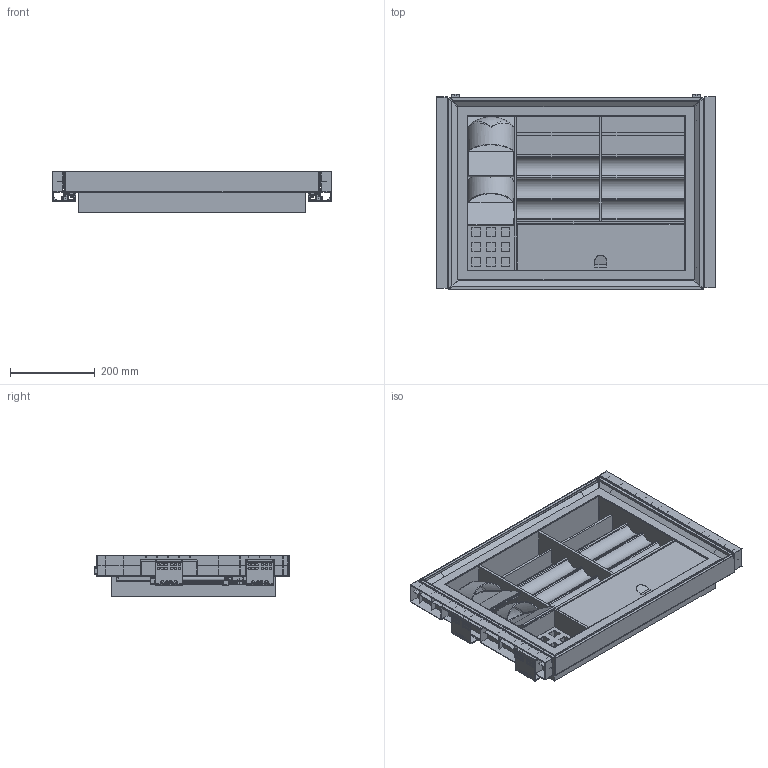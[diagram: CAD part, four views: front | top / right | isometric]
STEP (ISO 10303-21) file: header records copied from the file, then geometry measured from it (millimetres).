
FILE_DESCRIPTION(/* description */ ('STEP AP242 Edition 2','CAx-IF Rec.Pracs.---Representation and Presentation of Product Manufacturing Information (PMI)---4.0---2014-10-13','CAx-IF Rec.Pracs.---3D Tessellated Geometry---0.4---2014-09-14','2;1','CAx-IF Rec.Pracs.---User Defined Attributes---1.5---2016-08-15'),/* implementation_level */ '2;1');
FILE_NAME(/* name */ '6a0ec87f93d4219ca213cb1c',/* time_stamp */ '2026-05-21T08:55:34Z',/* author */ (''),/* organization */ (''),/* preprocessor_version */ 'ST-DEVELOPER v20',/* originating_system */ 'ONSHAPE BY PTC INC, 1.215',/* authorisation */ ' ');
FILE_SCHEMA (('AP242_MANAGED_MODEL_BASED_3D_ENGINEERING_MIM_LF { 1 0 10303 442 3 1 4 }'));
Products named in the file (49): 700 assembly; Part 1; Part 9; Part 7; Part 5; Part 3; Part 2; Part 4; Part 10; Part 8; Part 6; assembly 700 (664mm) Copy 1 <1>; Part 11; Part 17; Part 24; Part 19; Part 15; Part 13; Part 20; Part 12; Part 22; Part 21; Part 23; Part 18; Part 16; Part 14
Assembly tree (49 placements, depth 3):
  700 assembly
    Part 1  x2
    Part 9
    Part 7
    Part 5
    Part 3
    Part 2
    Part 4
    Part 10
    Part 8
    Part 6
    assembly 700 (664mm) Copy 1 <1>
      Part 3
      Part 11
      Part 1
      Part 7
      Part 17
      Part 5
      Part 6
      Part 24
      Part 5
      Part 7
      Part 19
      Part 15
      Part 13
      Part 4
      Part 2
      Part 9
      Part 2
      Part 2
      Part 4
      Part 10
      Part 20
      Part 1
      Part 10
      Part 12
      Part 1
      Part 22
      Part 21
      Part 9
      Part 23
      Part 8
      Part 18
      Part 3
      Part 6
      Part 16
      Part 14
      Part 8
    Part 1
Bounding box: 659.35 x 463.26 x 99.05 mm (x, y, z)
Volume: 8639439.6 mm3; surface area: 3266896.1 mm2
Topology: 48 solids, 48 shells, 4731 faces, 12201 edges, 7278 vertices
Faces by surface type: plane 2434, cylinder 1535, torus 352, sphere 344, bspline 64, cone 2
Full cylindrical faces by diameter (mm): 2 x2, 2.1 x2, 2.45 x2, 2.5 x2, 2.6 x2, 4 x4, 4.5 x2, 6 x56, 9 x2
Entity records: 140813 total; most frequent: CARTESIAN_POINT 25477, DIRECTION 24349, ORIENTED_EDGE 23414, EDGE_CURVE 11707, AXIS2_PLACEMENT_3D 8131, LINE 8087, VECTOR 8087, VERTEX_POINT 7236
